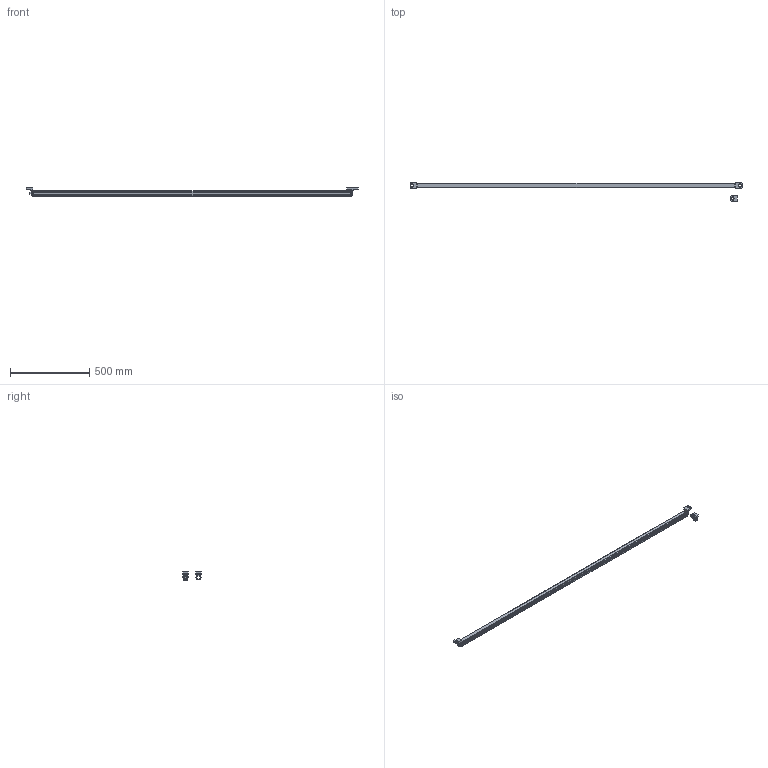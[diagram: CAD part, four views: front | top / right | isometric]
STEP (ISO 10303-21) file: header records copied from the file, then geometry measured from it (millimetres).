
FILE_DESCRIPTION((''),'2;1');
FILE_NAME('Solid_1950.stp','2007-11-16T11:33:20',(''),(''),'Mechanical Desktop 2008','Mechanical Desktop 2008',', , ');
FILE_SCHEMA(('CONFIG_CONTROL_DESIGN'));
Length unit declared in the file: millimetre
Products named in the file (9): SOLID; PROFIL VOLL; KAPPE; ~KAPPE; FRONTSCHEIBE; HALTER; ~HALTER; ~~HALTER; RM_SDB
Assembly tree (9 placements, depth 2):
  SOLID
    PROFIL VOLL
    KAPPE
    ~KAPPE
    FRONTSCHEIBE
    HALTER
    ~HALTER
    ~~HALTER
    RM_SDB  x2
Bounding box: 2089.97 x 115.8 x 51.28 mm (x, y, z)
Volume: 1778930.6 mm3; surface area: 402096.2 mm2
Topology: 7 solids, 7 shells, 213 faces, 557 edges, 370 vertices
Faces by surface type: plane 130, cone 44, cylinder 39
Entity records: 6828 total; most frequent: DIRECTION 1165, CARTESIAN_POINT 1158, ORIENTED_EDGE 1114, EDGE_CURVE 557, AXIS2_PLACEMENT_3D 389, VECTOR 387, LINE 387, VERTEX_POINT 370
